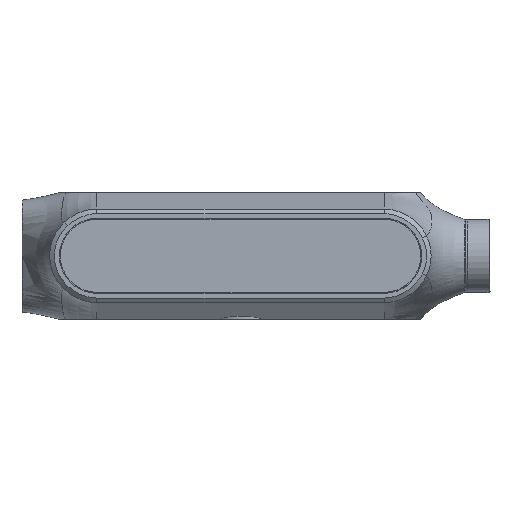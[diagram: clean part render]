
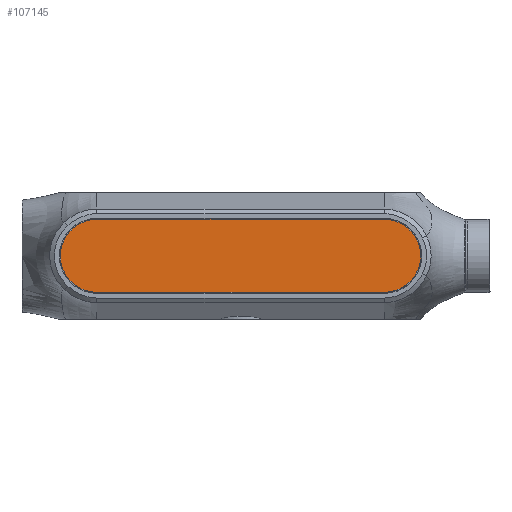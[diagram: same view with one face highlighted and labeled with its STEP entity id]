
A CAD part, top view. The second image highlights one B-rep face of the part: STEP entity #107145.
In plain terms, the highlighted planar face has unit normal (0, 0, 1) as drawn and (0, -1, 0) by its records, which use the part's own axes.
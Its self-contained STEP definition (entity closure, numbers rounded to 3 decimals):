
#107016=CARTESIAN_POINT('',(-29.511,-1.1,0.004));
#107017=DIRECTION('',(0.,-1.,0.));
#107018=DIRECTION('',(0.001,0.,1.));
#107019=AXIS2_PLACEMENT_3D('',#107016,#107017,#107018);
#107024=DIRECTION('',(-1.,0.,0.));
#107025=VECTOR('',#107024,59.002);
#107026=CARTESIAN_POINT('',(29.499,-1.1,7.499));
#107027=LINE('',#107026,#107025);
#107031=CARTESIAN_POINT('',(29.501,-1.1,0.004));
#107032=DIRECTION('',(0.,-1.,0.));
#107033=DIRECTION('',(0.,0.,-1.));
#107034=AXIS2_PLACEMENT_3D('',#107031,#107032,#107033);
#107039=DIRECTION('',(1.,0.,0.));
#107040=VECTOR('',#107039,59.02);
#107041=CARTESIAN_POINT('',(-29.518,-1.1,-7.491));
#107042=LINE('',#107041,#107040);
#107054=CARTESIAN_POINT('',(-29.503,-1.1,7.499));
#107055=CARTESIAN_POINT('',(-29.518,-1.1,-7.491));
#107056=VERTEX_POINT('',#107054);
#107057=VERTEX_POINT('',#107055);
#107058=CARTESIAN_POINT('',(29.502,-1.1,-7.491));
#107059=VERTEX_POINT('',#107058);
#107060=CARTESIAN_POINT('',(29.499,-1.1,7.499));
#107061=VERTEX_POINT('',#107060);
#107134=CARTESIAN_POINT('',(0.,-1.1,0.));
#107135=DIRECTION('',(0.,-1.,0.));
#107136=DIRECTION('',(0.,0.,-1.));
#107137=AXIS2_PLACEMENT_3D('',#107134,#107135,#107136);
#107138=PLANE('',#107137);
#107139=ORIENTED_EDGE('',*,*,#107086,.F.);
#107140=ORIENTED_EDGE('',*,*,#107101,.F.);
#107141=ORIENTED_EDGE('',*,*,#107115,.F.);
#107142=ORIENTED_EDGE('',*,*,#107128,.F.);
#107143=EDGE_LOOP('',(#107139,#107140,#107141,#107142));
#107144=FACE_OUTER_BOUND('',#107143,.F.);
#107020=CIRCLE('',#107019,7.495);
#107035=CIRCLE('',#107034,7.495);
#107086=EDGE_CURVE('',#107056,#107057,#107020,.T.);
#107101=EDGE_CURVE('',#107061,#107056,#107027,.T.);
#107115=EDGE_CURVE('',#107059,#107061,#107035,.T.);
#107128=EDGE_CURVE('',#107057,#107059,#107042,.T.);
#107145=ADVANCED_FACE('',(#107144),#107138,.T.);
